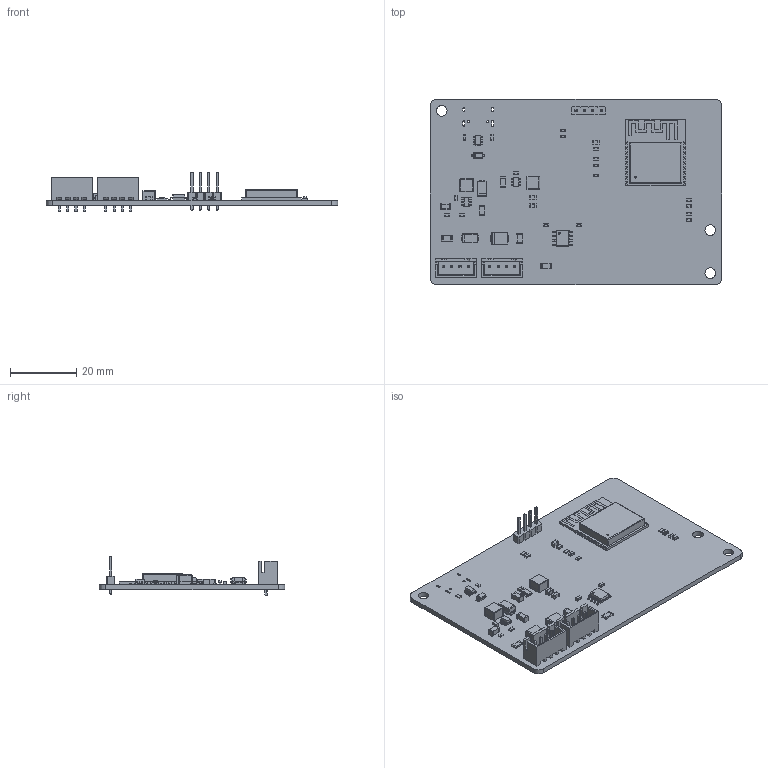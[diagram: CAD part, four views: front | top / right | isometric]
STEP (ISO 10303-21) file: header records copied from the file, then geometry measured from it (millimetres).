
FILE_DESCRIPTION(('KiCad electronic assembly'),'2;1');
FILE_NAME('AP_Node.step','2026-10-10T00:01:13',('Pcbnew'),('Kicad'), 'Open CASCADE STEP processor 7.6','KiCad to STEP converter','Unknown' );
FILE_SCHEMA(('AUTOMOTIVE_DESIGN { 1 0 10303 214 1 1 1 1 }'));
Length unit declared in the file: millimetre
Products named in the file (19): AP_Node 1; C_0603_1608Metric; D_SMA; D_SMB; R_0603_1608Metric; C_0805_2012Metric; C_1206_3216Metric; Fuse_1206_3216Metric; D_SOD-123; JST_XH_B4B-XH-A_1x04_P2.50mm_Vertical; LED_0603_1608Metric; SOT-23-6; TSOT-23-6; ESP32-C3-WROOM-02; R_1206_3216Metric; L_Changjiang_FNR4030S; SOIC-8_3.9x4.9mm_P1.27mm; PinHeader_1x04_P2.54mm_Vertical; AP_Node_PCB
Assembly tree (42 placements, depth 2):
  AP_Node 1
    C_0603_1608Metric  x6
    D_SMA  x2
    D_SMB
    R_0603_1608Metric  x10
    C_0805_2012Metric  x3
    C_1206_3216Metric  x4
    Fuse_1206_3216Metric
    D_SOD-123
    JST_XH_B4B-XH-A_1x04_P2.50mm_Vertical  x2
    LED_0603_1608Metric  x2
    SOT-23-6  x2
    TSOT-23-6
    ESP32-C3-WROOM-02
    R_1206_3216Metric
    L_Changjiang_FNR4030S  x2
    SOIC-8_3.9x4.9mm_P1.27mm
    PinHeader_1x04_P2.54mm_Vertical
    AP_Node_PCB
Bounding box: 88 x 56 x 11.94 mm (x, y, z)
Volume: 9000.8 mm3; surface area: 14046.2 mm2
Topology: 71 solids, 71 shells, 2305 faces, 5883 edges, 3766 vertices
Faces by surface type: plane 1638, cylinder 477, bspline 178, sphere 12
Full cylindrical faces by diameter (mm): 0.3 x4, 0.5 x1, 0.6 x1, 0.65 x2, 0.95 x8, 1 x4, 3.2 x3
Entity records: 41744 total; most frequent: CARTESIAN_POINT 7873, ORIENTED_EDGE 7098, DIRECTION 6475, EDGE_CURVE 3549, LINE 2903, VECTOR 2903, VERTEX_POINT 2264, AXIS2_PLACEMENT_3D 1786
